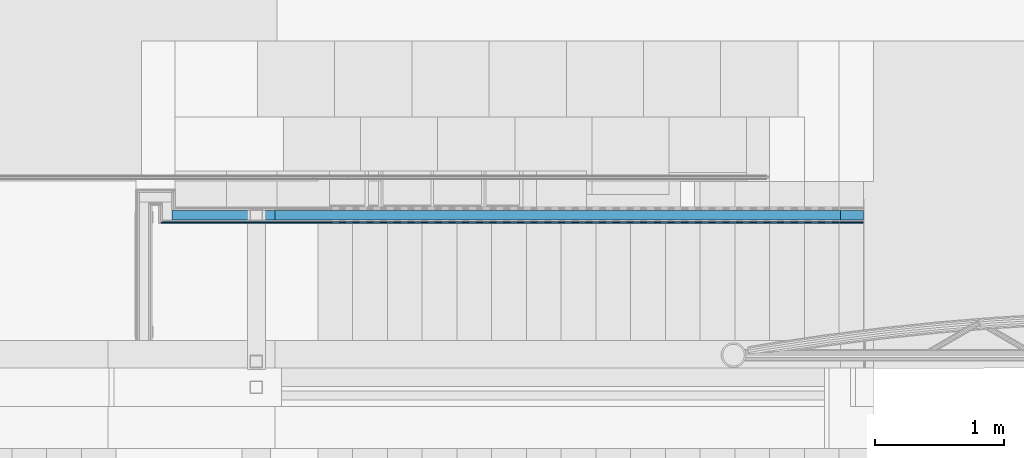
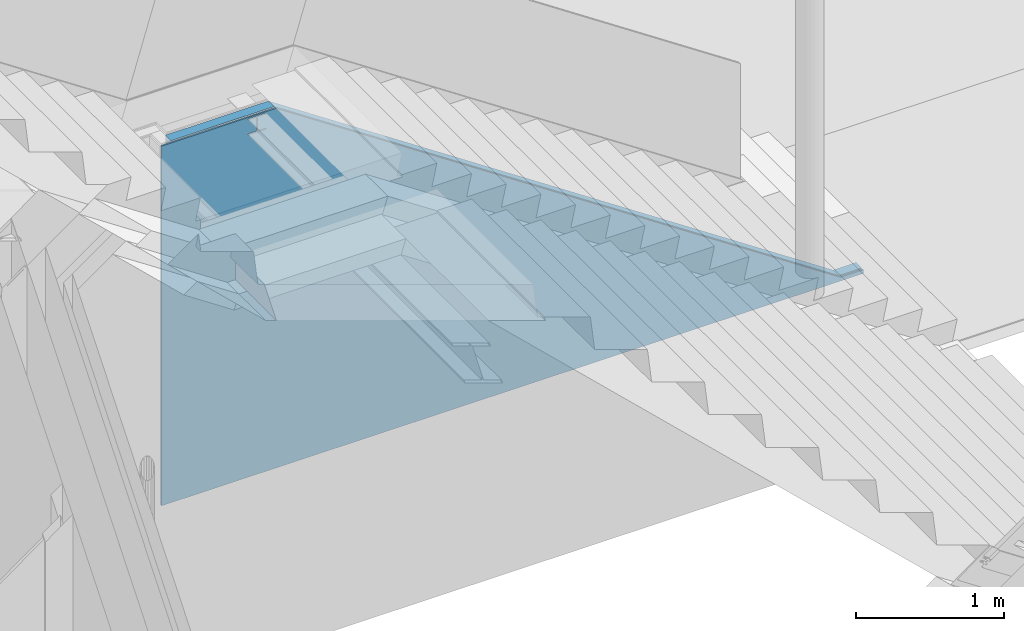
# One storey, part 60 of 165: 2 building element parts, 1 element without a shape of its own.
"""IFC2X3 building model written with IfcOpenShell, lengths in millimetres."""

from ifc_helpers import new_model, entity, si_unit, converted_unit, derived_unit, money_unit, direction, frame, origin_with_axes, place, context, subcontext, project, spatial, faceted_brep, material, type_object, element, aggregate, save


model = new_model("IFC2X3")

# Units and contexts
model_context = context("Model", 3, precision=0.01, world=origin_with_axes(), true_north=direction((0.0, 1.0)))
body_context = subcontext(model_context, "Body", "Model", "MODEL_VIEW")
ifc_project = project(units=[si_unit("LENGTHUNIT", "METRE", prefix="MILLI"), si_unit("AREAUNIT", "SQUARE_METRE"), si_unit("VOLUMEUNIT", "CUBIC_METRE"), converted_unit("PLANEANGLEUNIT", "DEGREE", entity("IfcPlaneAngleMeasure", 0.0174532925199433), si_unit("PLANEANGLEUNIT", "RADIAN"), dimensions=[0, 0, 0, 0, 0, 0, 0]), money_unit("EUR"), converted_unit("TIMEUNIT", "Year", entity("IfcTimeMeasure", 31556926.0), si_unit("TIMEUNIT", "SECOND"), dimensions=[0, 0, 1, 0, 0, 0, 0]), si_unit("MASSUNIT", "GRAM", prefix="KILO"), si_unit("THERMODYNAMICTEMPERATUREUNIT", "DEGREE_CELSIUS"), si_unit("LUMINOUSINTENSITYUNIT", "LUMEN"), si_unit("ENERGYUNIT", "JOULE", prefix="MEGA"), derived_unit("THERMALCONDUCTANCEUNIT", [(si_unit("POWERUNIT", "WATT"), 1), (si_unit("LENGTHUNIT", "METRE"), -1), (si_unit("THERMODYNAMICTEMPERATUREUNIT", "KELVIN"), -1)]), derived_unit("SPECIFICHEATCAPACITYUNIT", [(si_unit("ENERGYUNIT", "JOULE"), 1), (si_unit("MASSUNIT", "GRAM", prefix="KILO"), -1), (si_unit("THERMODYNAMICTEMPERATUREUNIT", "KELVIN"), -1)]), derived_unit("MASSDENSITYUNIT", [(si_unit("MASSUNIT", "GRAM", prefix="KILO"), 1), (si_unit("VOLUMEUNIT", "CUBIC_METRE"), -1)])], contexts=[model_context])

# Site, building, storey
site_placement = place(None, origin_with_axes())
site = spatial("IfcSite", under=ifc_project, at=site_placement, Name="Site", CompositionType="ELEMENT")
building_placement = place(site_placement, origin_with_axes())
building = spatial("IfcBuilding", under=site, at=building_placement, Name="Naam gebouw", CompositionType="ELEMENT")
storey_placement = place(building_placement, origin_with_axes())
storey = spatial("IfcBuildingStorey", under=building, at=storey_placement, Name="Begane grond", CompositionType="ELEMENT", Elevation=0.0)

# Proxy, building element parts
building_element_proxy_type = type_object("IfcBuildingElementProxyType", Name="22 Metal stud 125 oregon pine 125", PredefinedType="NOTDEFINED")
proxy_placement = place(storey_placement, frame((13358.57015757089, 5730.000004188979, -100.0), z_axis=(0.0, 0.0, 1.0), x_axis=(1.0, 0.0, 0.0)))
proxy = element("IfcBuildingElementProxy", 1, at=proxy_placement, inside=storey, type_object=building_element_proxy_type, Name="_Wand-x")
ifc_material_1 = material(Name="Gipsplaat")
building_element_part_1_placement = place(proxy_placement, origin_with_axes())
building_element_part_1 = element("IfcBuildingElementPart", 2, at=building_element_part_1_placement, material=ifc_material_1, Name="Gipsplaat", context=body_context, shape_type="Brep", body=[
    faceted_brep([(5161.429875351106, -112.4999999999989, 38.1601360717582), (5173.670079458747, -112.4999999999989, 29.99999999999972), (5351.427797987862, -112.4999999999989, 29.99999999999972), (5351.427797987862, -112.4999999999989, 0.0), (-112.4999999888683, -112.4999999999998, 0.0), (-112.4999999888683, -112.4999999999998, 2960.0), (778.6700799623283, -112.4999999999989, 2959.99999887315), (1201.429875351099, -112.4999999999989, 2678.160136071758), (1291.429875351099, -112.4999999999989, 2618.160136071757), (1381.429875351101, -112.4999999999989, 2558.160136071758), (1471.429875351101, -112.4999999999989, 2498.160136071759), (1561.4298753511, -112.4999999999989, 2438.160136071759), (1651.4298753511, -112.4999999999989, 2378.160136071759), (1741.4298753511, -112.4999999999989, 2318.160136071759), (1831.429875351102, -112.4999999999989, 2258.160136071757), (1921.429875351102, -112.4999999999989, 2198.160136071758), (2011.429875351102, -112.4999999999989, 2138.160136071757), (2101.429875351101, -112.4999999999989, 2078.160136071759), (2191.429875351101, -112.4999999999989, 2018.160136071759), (2281.429875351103, -112.4999999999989, 1958.160136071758), (2371.429875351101, -112.4999999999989, 1898.160136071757), (2461.429875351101, -112.4999999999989, 1838.160136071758), (2551.429875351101, -112.4999999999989, 1778.160136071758), (2641.429875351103, -112.4999999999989, 1718.160136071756), (2731.429875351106, -112.4999999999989, 1658.160136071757), (2821.429875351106, -112.4999999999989, 1598.160136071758), (2911.429875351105, -112.4999999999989, 1538.160136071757), (3001.429875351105, -112.4999999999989, 1478.160136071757), (3091.429875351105, -112.4999999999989, 1418.160136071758), (3181.429875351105, -112.4999999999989, 1358.160136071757), (3271.429875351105, -112.4999999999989, 1298.160136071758), (3361.429875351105, -112.4999999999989, 1238.160136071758), (3451.429875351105, -112.4999999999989, 1178.160136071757), (3541.429875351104, -112.4999999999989, 1118.160136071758), (3631.429875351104, -112.4999999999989, 1058.160136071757), (3721.429875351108, -112.4999999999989, 998.1601360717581), (3811.429875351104, -112.4999999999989, 938.1601360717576), (3901.429875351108, -112.4999999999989, 878.1601360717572), (3991.429875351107, -112.4999999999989, 818.1601360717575), (4081.429875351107, -112.4999999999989, 758.160136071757), (4171.429875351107, -112.4999999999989, 698.1601360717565), (4261.429875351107, -112.4999999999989, 638.1601360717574), (4351.429875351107, -112.4999999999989, 578.1601360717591), (4441.429875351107, -112.4999999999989, 518.1601360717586), (4531.429875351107, -112.4999999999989, 458.1601360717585), (4621.429875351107, -112.4999999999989, 398.1601360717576), (4711.429875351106, -112.4999999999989, 338.1601360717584), (4801.429875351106, -112.4999999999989, 278.1601360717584), (4891.429875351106, -112.4999999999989, 218.1601360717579), (4981.429875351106, -112.4999999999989, 158.1601360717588), (5071.429875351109, -112.4999999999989, 98.16013607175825), (701.4298424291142, -112.4999999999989, 2825.499999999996), (634.1798424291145, -112.4999999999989, 2825.499999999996), (634.1798424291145, -112.4999999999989, 2941.499999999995), (701.4298424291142, -112.4999999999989, 2941.499999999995), (701.4298424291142, -112.4999999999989, 2949.999999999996), (561.4298424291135, -112.4999999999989, 2949.999999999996), (561.4298424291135, -112.4999999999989, 2941.499999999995), (628.6798424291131, -112.4999999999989, 2941.499999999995), (628.6798424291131, -112.4999999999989, 2825.499999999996), (561.4298424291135, -112.4999999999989, 2825.499999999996), (561.4298424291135, -112.4999999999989, 2816.999999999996), (701.4298424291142, -112.4999999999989, 2816.999999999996), (5161.42987599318, -124.9999999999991, 38.1601360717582), (5173.670080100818, -124.9999999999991, 29.99999999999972), (5351.427797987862, -124.9999999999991, 29.99999999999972), (5351.427797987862, -124.9999999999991, 0.0), (-112.4999999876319, -125.0, 0.0), (-112.4999999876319, -125.0, 2960.0), (778.6700805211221, -124.9999999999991, 2959.999998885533), (1201.429875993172, -124.9999999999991, 2678.160136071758), (1291.429875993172, -124.9999999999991, 2618.160136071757), (1381.429875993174, -124.9999999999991, 2558.160136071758), (1471.429875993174, -124.9999999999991, 2498.160136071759), (1561.429875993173, -124.9999999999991, 2438.160136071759), (1651.429875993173, -124.9999999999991, 2378.160136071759), (1741.429875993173, -124.9999999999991, 2318.160136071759), (1831.429875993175, -124.9999999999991, 2258.160136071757), (1921.429875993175, -124.9999999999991, 2198.160136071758), (2011.429875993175, -124.9999999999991, 2138.160136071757), (2101.429875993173, -124.9999999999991, 2078.160136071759), (2191.429875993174, -124.9999999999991, 2018.160136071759), (2281.429875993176, -124.9999999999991, 1958.160136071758), (2371.429875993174, -124.9999999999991, 1898.160136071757), (2461.429875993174, -124.9999999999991, 1838.160136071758), (2551.429875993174, -124.9999999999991, 1778.160136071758), (2641.429875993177, -124.9999999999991, 1718.160136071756), (2731.429875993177, -124.9999999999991, 1658.160136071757), (2821.429875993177, -124.9999999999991, 1598.160136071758), (2911.429875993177, -124.9999999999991, 1538.160136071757), (3001.429875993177, -124.9999999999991, 1478.160136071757), (3091.429875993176, -124.9999999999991, 1418.160136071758), (3181.42987599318, -124.9999999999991, 1358.160136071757), (3271.42987599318, -124.9999999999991, 1298.160136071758), (3361.429875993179, -124.9999999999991, 1238.160136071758), (3451.429875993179, -124.9999999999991, 1178.160136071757), (3541.429875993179, -124.9999999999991, 1118.160136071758), (3631.429875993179, -124.9999999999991, 1058.160136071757), (3721.429875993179, -124.9999999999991, 998.1601360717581), (3811.429875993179, -124.9999999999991, 938.1601360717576), (3901.429875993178, -124.9999999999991, 878.1601360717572), (3991.429875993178, -124.9999999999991, 818.1601360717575), (4081.429875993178, -124.9999999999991, 758.160136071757), (4171.429875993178, -124.9999999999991, 698.1601360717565), (4261.429875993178, -124.9999999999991, 638.1601360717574), (4351.429875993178, -124.9999999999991, 578.1601360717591), (4441.429875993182, -124.9999999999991, 518.1601360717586), (4531.429875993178, -124.9999999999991, 458.1601360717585), (4621.429875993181, -124.9999999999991, 398.1601360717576), (4711.429875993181, -124.9999999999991, 338.1601360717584), (4801.429875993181, -124.9999999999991, 278.1601360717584), (4891.429875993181, -124.9999999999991, 218.1601360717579), (4981.429875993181, -124.9999999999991, 158.1601360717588), (5071.429875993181, -124.9999999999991, 98.16013607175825), (701.4298424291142, -124.9999999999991, 2825.499999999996), (634.1798424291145, -124.9999999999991, 2825.499999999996), (634.1798424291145, -124.9999999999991, 2941.499999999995), (701.4298424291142, -124.9999999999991, 2941.499999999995), (701.4298424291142, -124.9999999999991, 2949.999999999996), (561.4298424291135, -124.9999999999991, 2949.999999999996), (561.4298424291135, -124.9999999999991, 2941.499999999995), (628.6798424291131, -124.9999999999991, 2941.499999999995), (628.6798424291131, -124.9999999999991, 2825.499999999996), (561.4298424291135, -124.9999999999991, 2825.499999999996), (561.4298424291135, -124.9999999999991, 2816.999999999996), (701.4298424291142, -124.9999999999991, 2816.999999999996)], [[[0, 1, 2, 3, 4, 5, 6, 7, 8, 9, 10, 11, 12, 13, 14, 15, 16, 17, 18, 19, 20, 21, 22, 23, 24, 25, 26, 27, 28, 29, 30, 31, 32, 33, 34, 35, 36, 37, 38, 39, 40, 41, 42, 43, 44, 45, 46, 47, 48, 49, 50], [51, 52, 53, 54, 55, 56, 57, 58, 59, 60, 61, 62]], [[1, 0, 63, 64]], [[65, 2, 1, 64]], [[2, 65, 66, 3]], [[66, 67, 4, 3]], [[68, 5, 4, 67]], [[6, 5, 68, 69]], [[7, 6, 69, 70]], [[8, 7, 70, 71]], [[9, 8, 71, 72]], [[10, 9, 72, 73]], [[11, 10, 73, 74]], [[12, 11, 74, 75]], [[13, 12, 75, 76]], [[14, 13, 76, 77]], [[15, 14, 77, 78]], [[16, 15, 78, 79]], [[17, 16, 79, 80]], [[18, 17, 80, 81]], [[19, 18, 81, 82]], [[20, 19, 82, 83]], [[21, 20, 83, 84]], [[22, 21, 84, 85]], [[23, 22, 85, 86]], [[24, 23, 86, 87]], [[25, 24, 87, 88]], [[26, 25, 88, 89]], [[27, 26, 89, 90]], [[28, 27, 90, 91]], [[29, 28, 91, 92]], [[30, 29, 92, 93]], [[31, 30, 93, 94]], [[32, 31, 94, 95]], [[33, 32, 95, 96]], [[34, 33, 96, 97]], [[35, 34, 97, 98]], [[36, 35, 98, 99]], [[37, 36, 99, 100]], [[38, 37, 100, 101]], [[39, 38, 101, 102]], [[40, 39, 102, 103]], [[41, 40, 103, 104]], [[42, 41, 104, 105]], [[43, 42, 105, 106]], [[44, 43, 106, 107]], [[45, 44, 107, 108]], [[46, 45, 108, 109]], [[47, 46, 109, 110]], [[48, 47, 110, 111]], [[49, 48, 111, 112]], [[50, 49, 112, 113]], [[0, 50, 113, 63]], [[114, 115, 52, 51]], [[115, 116, 53, 52]], [[116, 117, 54, 53]], [[117, 118, 55, 54]], [[118, 119, 56, 55]], [[119, 120, 57, 56]], [[120, 121, 58, 57]], [[121, 122, 59, 58]], [[122, 123, 60, 59]], [[123, 124, 61, 60]], [[124, 125, 62, 61]], [[125, 114, 51, 62]], [[69, 68, 67, 66, 65, 64, 63, 113, 112, 111, 110, 109, 108, 107, 106, 105, 104, 103, 102, 101, 100, 99, 98, 97, 96, 95, 94, 93, 92, 91, 90, 89, 88, 87, 86, 85, 84, 83, 82, 81, 80, 79, 78, 77, 76, 75, 74, 73, 72, 71, 70], [122, 121, 120, 119, 118, 117, 116, 115, 114, 125, 124, 123]]]),
])
ifc_material_2 = material(Name="ALG - LICHTE SCHEIDINGSWAND")
building_element_part_2_placement = place(proxy_placement, origin_with_axes())
building_element_part_2 = element("IfcBuildingElementPart", 3, at=building_element_part_2_placement, material=ifc_material_2, Name="ALG - LICHTE SCHEIDINGSWAND", context=body_context, shape_type="Brep", body=[
    faceted_brep([(5161.429870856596, -24.99999999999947, 38.1601360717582), (5173.670074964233, -24.99999999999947, 29.99999999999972), (5351.427797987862, -24.99999999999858, 29.99999999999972), (5351.427797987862, -24.99999999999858, 0.0), (681.4298424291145, -24.99999999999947, 0.0), (681.4298424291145, -24.99999999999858, 2816.999999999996), (701.4298424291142, -24.99999999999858, 2816.999999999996), (701.4298424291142, -24.99999999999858, 2825.499999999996), (634.1798424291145, -24.99999999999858, 2825.499999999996), (634.1798424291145, -24.99999999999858, 2941.499999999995), (701.4298424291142, -24.99999999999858, 2941.499999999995), (701.4298424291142, -24.99999999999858, 2949.999999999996), (561.4298424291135, -24.99999999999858, 2949.999999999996), (561.4298424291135, -24.99999999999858, 2941.499999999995), (628.6798424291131, -24.99999999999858, 2941.499999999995), (628.6798424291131, -24.99999999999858, 2825.499999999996), (561.4298424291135, -24.99999999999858, 2825.499999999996), (561.4298424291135, -24.99999999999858, 2816.999999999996), (581.4298424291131, -24.99999999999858, 2816.999999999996), (581.4298424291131, -24.99999999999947, 0.0), (-24.99999999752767, -25.00000000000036, 0.0), (-24.99999999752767, -24.99999999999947, 2960.0), (778.6700760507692, -24.99999999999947, 2959.999998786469), (1201.429870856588, -24.99999999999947, 2678.160136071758), (1291.429870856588, -24.99999999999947, 2618.160136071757), (1381.429870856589, -24.99999999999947, 2558.160136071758), (1471.429870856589, -24.99999999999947, 2498.160136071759), (1561.429870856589, -24.99999999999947, 2438.160136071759), (1651.429870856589, -24.99999999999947, 2378.160136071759), (1741.429870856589, -24.99999999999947, 2318.160136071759), (1831.42987085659, -24.99999999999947, 2258.160136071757), (1921.42987085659, -24.99999999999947, 2198.160136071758), (2011.42987085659, -24.99999999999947, 2138.160136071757), (2101.42987085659, -24.99999999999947, 2078.160136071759), (2191.42987085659, -24.99999999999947, 2018.160136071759), (2281.429870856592, -24.99999999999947, 1958.160136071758), (2371.429870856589, -24.99999999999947, 1898.160136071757), (2461.429870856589, -24.99999999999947, 1838.160136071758), (2551.429870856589, -24.99999999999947, 1778.160136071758), (2641.429870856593, -24.99999999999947, 1718.160136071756), (2731.429870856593, -24.99999999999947, 1658.160136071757), (2821.429870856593, -24.99999999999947, 1598.160136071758), (2911.429870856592, -24.99999999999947, 1538.160136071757), (3001.429870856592, -24.99999999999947, 1478.160136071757), (3091.429870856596, -24.99999999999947, 1418.160136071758), (3181.429870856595, -24.99999999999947, 1358.160136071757), (3271.429870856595, -24.99999999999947, 1298.160136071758), (3361.429870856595, -24.99999999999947, 1238.160136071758), (3451.429870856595, -24.99999999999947, 1178.160136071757), (3541.429870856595, -24.99999999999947, 1118.160136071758), (3631.429870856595, -24.99999999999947, 1058.160136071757), (3721.429870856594, -24.99999999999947, 998.1601360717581), (3811.429870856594, -24.99999999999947, 938.1601360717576), (3901.429870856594, -24.99999999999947, 878.1601360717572), (3991.429870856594, -24.99999999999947, 818.1601360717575), (4081.429870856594, -24.99999999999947, 758.160136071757), (4171.429870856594, -24.99999999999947, 698.1601360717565), (4261.429870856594, -24.99999999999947, 638.1601360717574), (4351.429870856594, -24.99999999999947, 578.1601360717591), (4441.429870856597, -24.99999999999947, 518.1601360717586), (4531.429870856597, -24.99999999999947, 458.1601360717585), (4621.429870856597, -24.99999999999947, 398.1601360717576), (4711.429870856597, -24.99999999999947, 338.1601360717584), (4801.429870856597, -24.99999999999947, 278.1601360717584), (4891.429870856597, -24.99999999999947, 218.1601360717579), (4981.429870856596, -24.99999999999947, 158.1601360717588), (5071.429870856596, -24.99999999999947, 98.16013607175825), (5161.429874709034, -99.99999999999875, 38.1601360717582), (5173.670078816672, -99.99999999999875, 29.99999999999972), (5351.427797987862, -99.99999999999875, 29.99999999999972), (5351.427797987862, -99.99999999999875, 0.0), (681.4298424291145, -99.99999999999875, 0.0), (681.4298424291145, -99.99999999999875, 2816.999999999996), (701.4298424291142, -99.99999999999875, 2816.999999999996), (701.4298424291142, -99.99999999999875, 2825.499999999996), (634.1798424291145, -99.99999999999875, 2825.499999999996), (634.1798424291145, -99.99999999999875, 2941.499999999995), (701.4298424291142, -99.99999999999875, 2941.499999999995), (701.4298424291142, -99.99999999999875, 2949.999999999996), (561.4298424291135, -99.99999999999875, 2949.999999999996), (561.4298424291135, -99.99999999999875, 2941.499999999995), (628.6798424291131, -99.99999999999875, 2941.499999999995), (628.6798424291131, -99.99999999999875, 2825.499999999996), (561.4298424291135, -99.99999999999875, 2825.499999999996), (561.4298424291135, -99.99999999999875, 2816.999999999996), (581.4298424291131, -99.99999999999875, 2816.999999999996), (581.4298424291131, -99.99999999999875, 0.0), (-24.99999999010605, -99.99999999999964, 0.0), (-24.99999999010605, -99.99999999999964, 2960.0), (778.6700794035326, -99.99999999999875, 2959.999998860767), (1201.429874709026, -99.99999999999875, 2678.160136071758), (1291.429874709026, -99.99999999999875, 2618.160136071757), (1381.429874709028, -99.99999999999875, 2558.160136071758), (1471.429874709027, -99.99999999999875, 2498.160136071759), (1561.429874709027, -99.99999999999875, 2438.160136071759), (1651.429874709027, -99.99999999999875, 2378.160136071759), (1741.429874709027, -99.99999999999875, 2318.160136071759), (1831.429874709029, -99.99999999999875, 2258.160136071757), (1921.429874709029, -99.99999999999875, 2198.160136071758), (2011.429874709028, -99.99999999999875, 2138.160136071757), (2101.429874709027, -99.99999999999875, 2078.160136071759), (2191.429874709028, -99.99999999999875, 2018.160136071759), (2281.42987470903, -99.99999999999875, 1958.160136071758), (2371.429874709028, -99.99999999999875, 1898.160136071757), (2461.429874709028, -99.99999999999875, 1838.160136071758), (2551.429874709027, -99.99999999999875, 1778.160136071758), (2641.429874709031, -99.99999999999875, 1718.160136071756), (2731.429874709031, -99.99999999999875, 1658.160136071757), (2821.429874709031, -99.99999999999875, 1598.160136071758), (2911.429874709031, -99.99999999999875, 1538.160136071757), (3001.429874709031, -99.99999999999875, 1478.160136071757), (3091.42987470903, -99.99999999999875, 1418.160136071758), (3181.429874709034, -99.99999999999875, 1358.160136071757), (3271.429874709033, -99.99999999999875, 1298.160136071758), (3361.429874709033, -99.99999999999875, 1238.160136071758), (3451.429874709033, -99.99999999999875, 1178.160136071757), (3541.429874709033, -99.99999999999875, 1118.160136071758), (3631.429874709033, -99.99999999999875, 1058.160136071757), (3721.429874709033, -99.99999999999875, 998.1601360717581), (3811.429874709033, -99.99999999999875, 938.1601360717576), (3901.429874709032, -99.99999999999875, 878.1601360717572), (3991.429874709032, -99.99999999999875, 818.1601360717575), (4081.429874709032, -99.99999999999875, 758.160136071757), (4171.429874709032, -99.99999999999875, 698.1601360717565), (4261.429874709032, -99.99999999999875, 638.1601360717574), (4351.429874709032, -99.99999999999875, 578.1601360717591), (4441.429874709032, -99.99999999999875, 518.1601360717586), (4531.429874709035, -99.99999999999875, 458.1601360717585), (4621.429874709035, -99.99999999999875, 398.1601360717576), (4711.429874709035, -99.99999999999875, 338.1601360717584), (4801.429874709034, -99.99999999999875, 278.1601360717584), (4891.429874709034, -99.99999999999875, 218.1601360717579), (4981.429874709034, -99.99999999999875, 158.1601360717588), (5071.429874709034, -99.99999999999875, 98.16013607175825)], [[[0, 1, 2, 3, 4, 5, 6, 7, 8, 9, 10, 11, 12, 13, 14, 15, 16, 17, 18, 19, 20, 21, 22, 23, 24, 25, 26, 27, 28, 29, 30, 31, 32, 33, 34, 35, 36, 37, 38, 39, 40, 41, 42, 43, 44, 45, 46, 47, 48, 49, 50, 51, 52, 53, 54, 55, 56, 57, 58, 59, 60, 61, 62, 63, 64, 65, 66]], [[1, 0, 67, 68]], [[69, 2, 1, 68]], [[2, 69, 70, 3]], [[70, 71, 4, 3]], [[71, 72, 5, 4]], [[6, 5, 72, 73]], [[73, 74, 7, 6]], [[74, 75, 8, 7]], [[75, 76, 9, 8]], [[76, 77, 10, 9]], [[77, 78, 11, 10]], [[78, 79, 12, 11]], [[79, 80, 13, 12]], [[80, 81, 14, 13]], [[81, 82, 15, 14]], [[82, 83, 16, 15]], [[83, 84, 17, 16]], [[84, 85, 18, 17]], [[86, 19, 18, 85]], [[20, 19, 86, 87]], [[88, 21, 20, 87]], [[22, 21, 88, 89]], [[23, 22, 89, 90]], [[24, 23, 90, 91]], [[25, 24, 91, 92]], [[26, 25, 92, 93]], [[27, 26, 93, 94]], [[28, 27, 94, 95]], [[29, 28, 95, 96]], [[30, 29, 96, 97]], [[31, 30, 97, 98]], [[32, 31, 98, 99]], [[33, 32, 99, 100]], [[34, 33, 100, 101]], [[35, 34, 101, 102]], [[36, 35, 102, 103]], [[37, 36, 103, 104]], [[38, 37, 104, 105]], [[39, 38, 105, 106]], [[40, 39, 106, 107]], [[41, 40, 107, 108]], [[42, 41, 108, 109]], [[43, 42, 109, 110]], [[44, 43, 110, 111]], [[45, 44, 111, 112]], [[46, 45, 112, 113]], [[47, 46, 113, 114]], [[48, 47, 114, 115]], [[49, 48, 115, 116]], [[50, 49, 116, 117]], [[51, 50, 117, 118]], [[52, 51, 118, 119]], [[53, 52, 119, 120]], [[54, 53, 120, 121]], [[55, 54, 121, 122]], [[56, 55, 122, 123]], [[57, 56, 123, 124]], [[58, 57, 124, 125]], [[59, 58, 125, 126]], [[60, 59, 126, 127]], [[61, 60, 127, 128]], [[62, 61, 128, 129]], [[63, 62, 129, 130]], [[64, 63, 130, 131]], [[65, 64, 131, 132]], [[66, 65, 132, 133]], [[0, 66, 133, 67]], [[89, 88, 87, 86, 85, 84, 83, 82, 81, 80, 79, 78, 77, 76, 75, 74, 73, 72, 71, 70, 69, 68, 67, 133, 132, 131, 130, 129, 128, 127, 126, 125, 124, 123, 122, 121, 120, 119, 118, 117, 116, 115, 114, 113, 112, 111, 110, 109, 108, 107, 106, 105, 104, 103, 102, 101, 100, 99, 98, 97, 96, 95, 94, 93, 92, 91, 90]]]),
    faceted_brep([(587.4298424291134, -24.99999999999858, 2816.999999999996), (675.4298424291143, -24.99999999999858, 2816.999999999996), (675.4298424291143, -24.99999999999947, 0.0), (587.4298424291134, -24.99999999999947, 0.0), (587.4298424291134, -99.99999999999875, 2816.999999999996), (675.4298424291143, -99.99999999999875, 2816.999999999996), (675.4298424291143, -99.99999999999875, 0.0), (587.4298424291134, -99.99999999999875, 0.0)], [[[0, 1, 2, 3]], [[4, 5, 1, 0]], [[6, 2, 1, 5]], [[3, 2, 6, 7]], [[7, 4, 0, 3]], [[7, 6, 5, 4]]]),
])
aggregate(proxy, [building_element_part_1, building_element_part_2])

save(model, "model.ifc")
